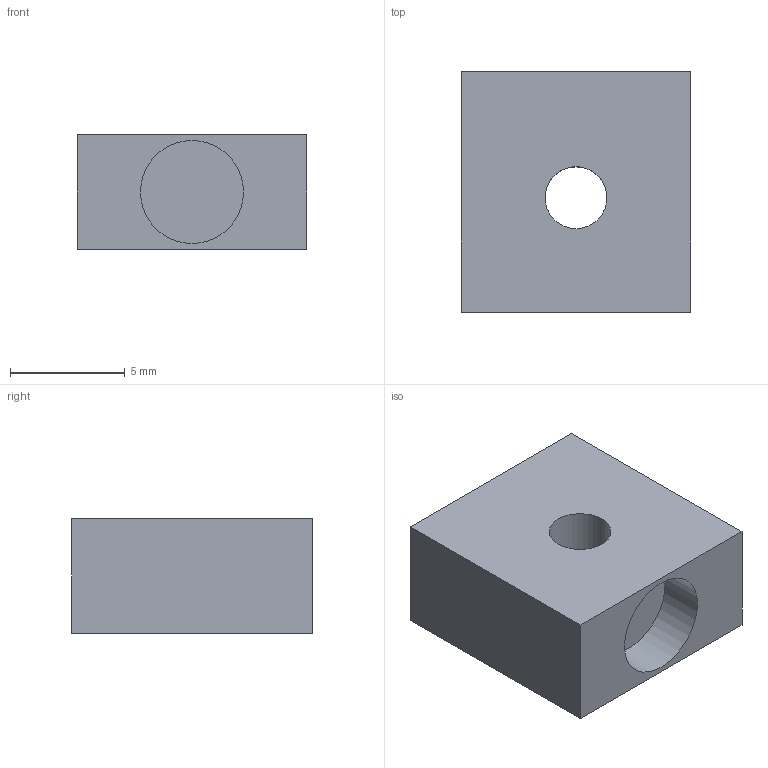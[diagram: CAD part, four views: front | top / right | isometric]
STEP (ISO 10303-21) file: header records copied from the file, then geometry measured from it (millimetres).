
FILE_DESCRIPTION (( 'STEP AP214' ), '1' );
FILE_NAME ('support_patin_frottement_maquette.STEP', '2016-07-11T15:13:30', ( 'utilisateur' ), ( 'Microsoft' ), 'SwSTEP 2.0', 'SolidWorks 2015', '' );
FILE_SCHEMA (( 'AUTOMOTIVE_DESIGN' ));
Length unit declared in the file: millimetre
Products named in the file (1): support_patin_frottement_maquette
Bounding box: 10 x 10.5 x 5 mm (x, y, z)
Volume: 464.6 mm3; surface area: 474.2 mm2
Topology: 1 solids, 1 shells, 9 faces, 18 edges, 12 vertices
Faces by surface type: plane 7, cylinder 2
Full cylindrical faces by diameter (mm): 2.7 x1, 4.5 x1
Entity records: 264 total; most frequent: DIRECTION 40, CARTESIAN_POINT 38, ORIENTED_EDGE 32, EDGE_CURVE 16, AXIS2_PLACEMENT_3D 14, EDGE_LOOP 14, VERTEX_POINT 12, LINE 12
